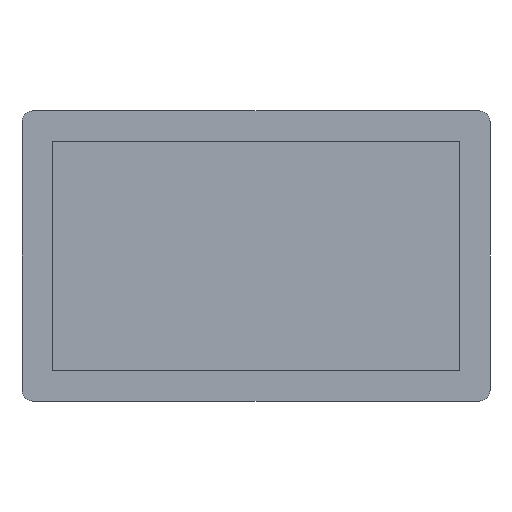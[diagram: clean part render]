
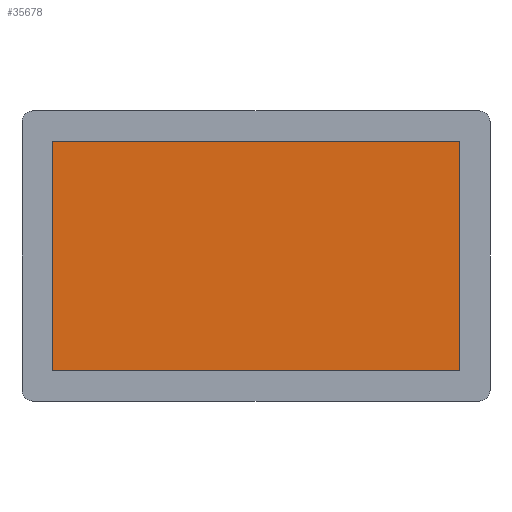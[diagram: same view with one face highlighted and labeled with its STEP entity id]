
A CAD part, front view. The second image highlights one B-rep face of the part: STEP entity #35678.
In plain terms, the highlighted planar face has unit normal (0, -1, 0).
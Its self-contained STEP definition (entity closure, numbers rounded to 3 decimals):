
#369=DIRECTION('',(0.,0.,1.));
#370=VECTOR('',#369,215.812);
#371=CARTESIAN_POINT('',(195.964,-5.995,-114.496));
#372=LINE('',#371,#370);
#373=DIRECTION('',(1.,0.,0.));
#374=VECTOR('',#373,382.888);
#375=CARTESIAN_POINT('',(-186.924,-5.995,-114.496));
#376=LINE('',#375,#374);
#377=DIRECTION('',(0.,0.,-1.));
#378=VECTOR('',#377,215.812);
#379=CARTESIAN_POINT('',(-186.924,-5.995,101.316));
#380=LINE('',#379,#378);
#381=DIRECTION('',(-1.,0.,0.));
#382=VECTOR('',#381,382.888);
#383=CARTESIAN_POINT('',(195.964,-5.995,101.316));
#384=LINE('',#383,#382);
#34302=CARTESIAN_POINT('',(195.964,-5.995,-114.496));
#34303=CARTESIAN_POINT('',(195.964,-5.995,101.316));
#34304=VERTEX_POINT('',#34302);
#34305=VERTEX_POINT('',#34303);
#34306=CARTESIAN_POINT('',(-186.924,-5.995,101.316));
#34307=VERTEX_POINT('',#34306);
#34308=CARTESIAN_POINT('',(-186.924,-5.995,-114.496));
#34309=VERTEX_POINT('',#34308);
#35667=CARTESIAN_POINT('',(224.265,-5.995,129.615));
#35668=DIRECTION('',(0.,-1.,0.));
#35669=DIRECTION('',(-1.,0.,0.));
#35670=AXIS2_PLACEMENT_3D('',#35667,#35668,#35669);
#35671=PLANE('',#35670);
#35672=ORIENTED_EDGE('',*,*,#35619,.F.);
#35673=ORIENTED_EDGE('',*,*,#35634,.F.);
#35674=ORIENTED_EDGE('',*,*,#35648,.F.);
#35675=ORIENTED_EDGE('',*,*,#35661,.F.);
#35676=EDGE_LOOP('',(#35672,#35673,#35674,#35675));
#35677=FACE_OUTER_BOUND('',#35676,.F.);
#35619=EDGE_CURVE('',#34304,#34305,#372,.T.);
#35634=EDGE_CURVE('',#34309,#34304,#376,.T.);
#35648=EDGE_CURVE('',#34307,#34309,#380,.T.);
#35661=EDGE_CURVE('',#34305,#34307,#384,.T.);
#35678=ADVANCED_FACE('',(#35677),#35671,.T.);
